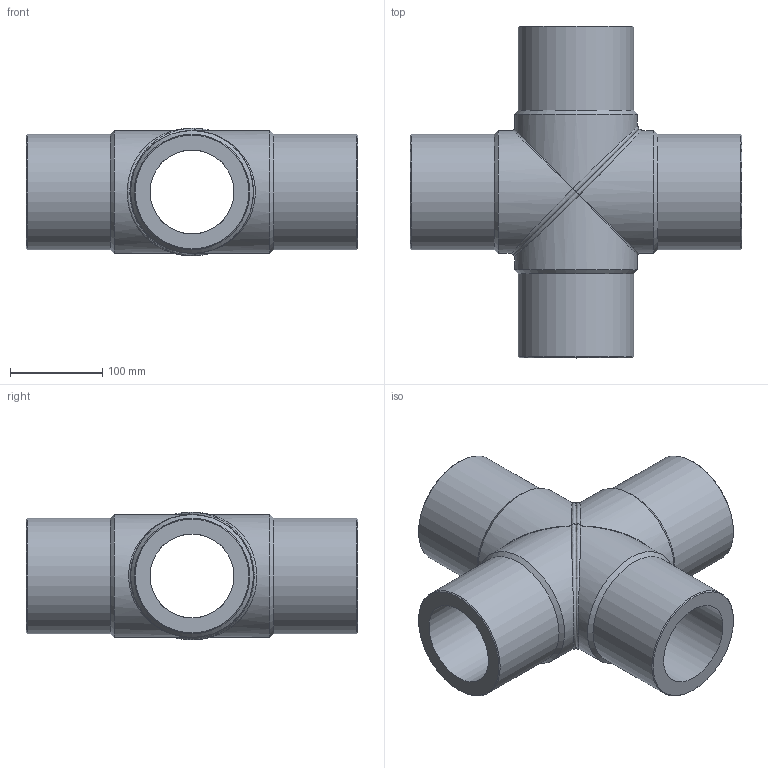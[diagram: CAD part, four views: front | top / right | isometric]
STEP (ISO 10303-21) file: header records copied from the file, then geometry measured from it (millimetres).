
FILE_DESCRIPTION(/* description */ ('Unknown'),/* implementation_level */ '2;1');
FILE_NAME(/* name */ 'CRP125H',/* time_stamp */ '2022-07-08T14:28:15+02:00',/* author */ ('Unknown'),/* organization */ ('Unknown'),/* preprocessor_version */ 'ST-DEVELOPER v18.102',/* originating_system */ 'Solid Edge',/* authorisation */ 'Unknown');
FILE_SCHEMA (('AUTOMOTIVE_DESIGN {1 0 10303 214 3 1 1}'));
Length unit declared in the file: millimetre
Products named in the file (3): CRP125H; CRP125H_mir
Assembly tree (2 placements, depth 2):
  CRP125H
    CRP125H
    CRP125H_mir
Bounding box: 359 x 359 x 137.99 mm (x, y, z)
Volume: 3656654.7 mm3; surface area: 438775.5 mm2
Topology: 2 solids, 2 shells, 32 faces, 132 edges, 102 vertices
Faces by surface type: cylinder 12, cone 8, plane 6, bspline 6
Full cylindrical faces by diameter (mm): 90.8 x4, 125 x4, 133 x4
Entity records: 3261 total; most frequent: CARTESIAN_POINT 2323, ORIENTED_EDGE 204, DIRECTION 126, EDGE_CURVE 102, VERTEX_POINT 92, B_SPLINE_CURVE_WITH_KNOTS 68, AXIS2_PLACEMENT_3D 63, EDGE_LOOP 58
